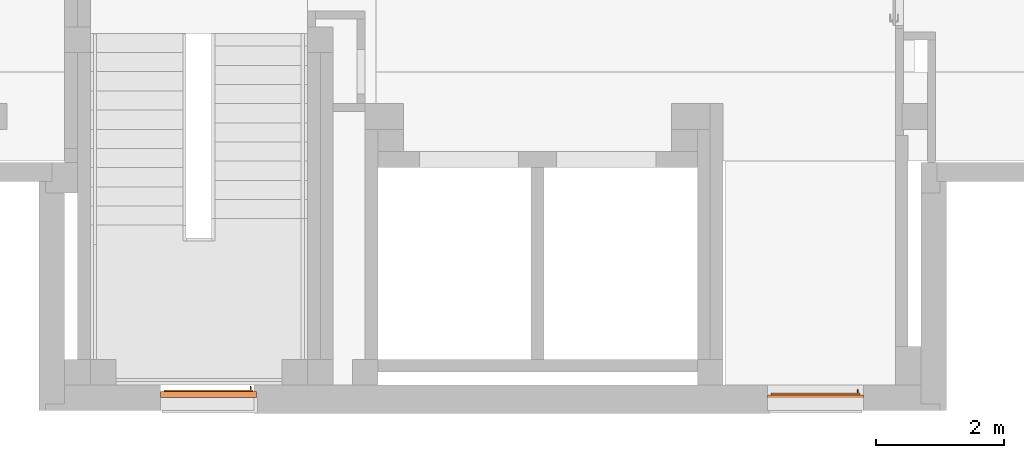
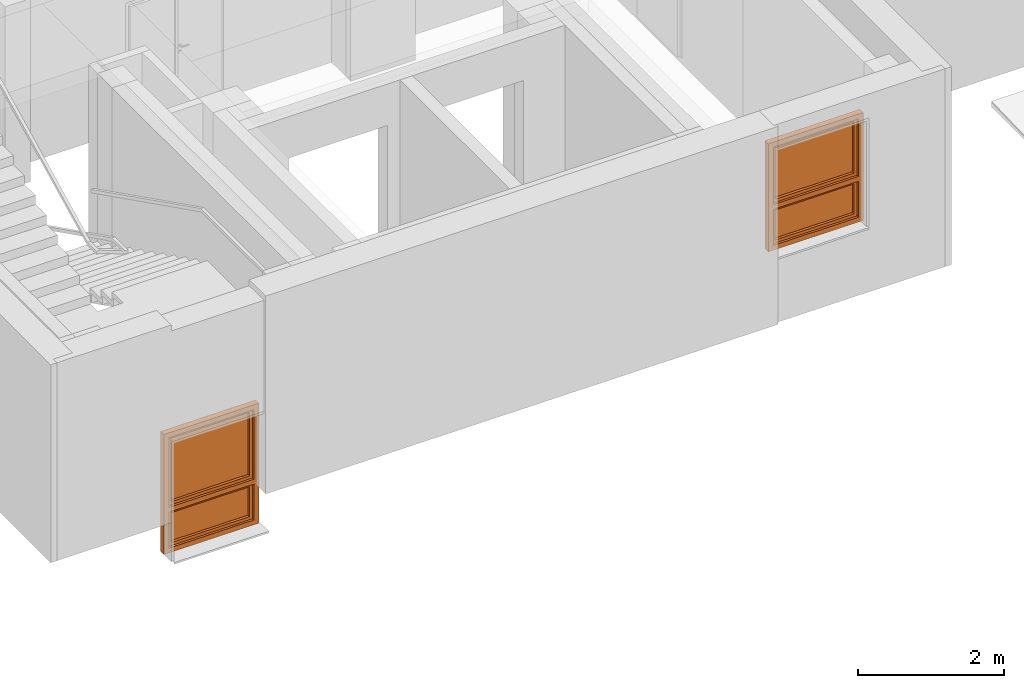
# One storey, part 27 of 27: 2 proxies.
"""IFC4 building model written with IfcOpenShell, lengths in metres."""

import ifcopenshell
import ifcopenshell.guid

model = None  # the IFC model being written
_history = None  # IfcOwnerHistory: only IFC2X3 demands one
_inside = {}  # id of a spatial element -> (the spatial element, [elements in it])
_under = {}  # id of a project, library or spatial element -> (it, [spatial elements below it])
_declared = {}  # id of a project -> (the project, [libraries it declares])
_typed = {}  # id of a type object -> (the type object, [elements of that type])
_made_of = {}  # id of a material, layer set ... -> (it, [elements and type objects made of it])


def new_model(schema):
    """Start an empty IFC model of exactly this schema.

    Asked for "IFC4X3", IfcOpenShell would pick the latest addendum, in which some entities
    have other attributes; the version numbers below select the first issue.
    IFC2X3 requires an IfcOwnerHistory on every rooted entity: one is made here for all.
    """
    global model, _history
    if schema == "IFC4X3":
        model = ifcopenshell.file(schema_version=(4, 3, 0, 0))
    else:
        model = ifcopenshell.file(schema=schema)
    _inside.clear()
    _under.clear()
    _declared.clear()
    _typed.clear()
    _made_of.clear()
    _history = None
    if model.schema == "IFC2X3":
        org = make("IfcOrganization", Name="unknown")
        user = make(
            "IfcPersonAndOrganization",
            ThePerson=make("IfcPerson", FamilyName="unknown"),
            TheOrganization=org,
        )
        app = make(
            "IfcApplication",
            ApplicationDeveloper=org,
            Version="unknown",
            ApplicationFullName="unknown",
            ApplicationIdentifier="unknown",
        )
        _history = make(
            "IfcOwnerHistory",
            OwningUser=user,
            OwningApplication=app,
            ChangeAction="ADDED",
            CreationDate=0,
        )
    return model


def make(cls, **values):
    """One entity of the class cls with the attributes given. An attribute that is None is left unset."""
    return model.create_entity(
        cls, **{name: value for name, value in values.items() if value is not None}
    )


def entity(cls, *values):
    """Any entity or typed value of the class cls, its attributes in the order of the schema. None: left unset."""
    e = model.create_entity(cls)
    for i, value in enumerate(values):
        if value is not None:
            e[i] = value
    return e


def rooted(cls, **values):
    """An entity with a GlobalId (a new one), such as an element, a storey or a relation."""
    return make(cls, GlobalId=ifcopenshell.guid.new(), OwnerHistory=_history, **values)


def si_unit(unit_type, name, prefix=None):
    """IfcSIUnit, for example si_unit("LENGTHUNIT", "METRE", prefix="MILLI")."""
    return make("IfcSIUnit", UnitType=unit_type, Prefix=prefix, Name=name)


def converted_unit(unit_type, name, factor, base, dimensions=None, offset=None):
    """IfcConversionBasedUnit, such as the inch: factor (a typed value) times the base unit."""
    return make(
        "IfcConversionBasedUnit"
        if offset is None
        else "IfcConversionBasedUnitWithOffset",
        ConversionOffset=offset,
        Dimensions=None
        if dimensions is None
        else entity("IfcDimensionalExponents", *dimensions),
        UnitType=unit_type,
        Name=name,
        ConversionFactor=make(
            "IfcMeasureWithUnit", ValueComponent=factor, UnitComponent=base
        ),
    )


def derived_unit(unit_type, elements):
    """IfcDerivedUnit: a product of units, each with its exponent."""
    return make(
        "IfcDerivedUnit",
        Elements=[
            make("IfcDerivedUnitElement", Unit=unit, Exponent=power)
            for unit, power in elements
        ],
        UnitType=unit_type,
    )


def assignment(units):
    """IfcUnitAssignment: the units of a project."""
    return None if units is None else make("IfcUnitAssignment", Units=units)


def point(xyz):
    """IfcCartesianPoint."""
    return None if xyz is None else make("IfcCartesianPoint", Coordinates=xyz)


def direction(xyz):
    """IfcDirection."""
    return None if xyz is None else make("IfcDirection", DirectionRatios=xyz)


def frame(location, z_axis=None, x_axis=None):
    """IfcAxis2Placement3D, a coordinate frame: its origin and axes. An axis left out is left unset."""
    return make(
        "IfcAxis2Placement3D",
        Location=point(location),
        Axis=direction(z_axis),
        RefDirection=direction(x_axis),
    )


def origin():
    """The frame at (0, 0, 0) with its axes left unset."""
    return frame((0.0, 0.0, 0.0))


def origin_with_axes():
    """The frame at (0, 0, 0) with the z axis (0, 0, 1) and the x axis (1, 0, 0) written out."""
    return frame((0.0, 0.0, 0.0), z_axis=(0.0, 0.0, 1.0), x_axis=(1.0, 0.0, 0.0))


def place(relative_to, where):
    """IfcLocalPlacement: puts the frame where relative to a parent placement (None: the world)."""
    return make(
        "IfcLocalPlacement", PlacementRelTo=relative_to, RelativePlacement=where
    )


def context(
    kind, dimensions, precision=None, world=None, true_north=None, identifier=None
):
    """IfcGeometricRepresentationContext, for example the 3D "Model" context."""
    return make(
        "IfcGeometricRepresentationContext",
        ContextIdentifier=identifier,
        ContextType=kind,
        CoordinateSpaceDimension=dimensions,
        Precision=precision,
        WorldCoordinateSystem=world,
        TrueNorth=true_north,
    )


def subcontext(parent, identifier, kind, view, scale=None):
    """IfcGeometricRepresentationSubContext, for example "Body" below "Model"."""
    return make(
        "IfcGeometricRepresentationSubContext",
        ContextIdentifier=identifier,
        ContextType=kind,
        ParentContext=parent,
        TargetScale=scale,
        TargetView=view,
    )


def project(units=None, contexts=None):
    """IfcProject with its units and contexts."""
    return rooted(
        "IfcProject",
        Name="project",
        RepresentationContexts=contexts,
        UnitsInContext=assignment(units),
    )


def spatial(cls, under=None, at=None, **own):
    """A site, building, storey or space (cls), placed at a placement, below another one or the project."""
    s = rooted(cls, ObjectPlacement=at, **own)
    if under is not None:
        _under.setdefault(under.id(), (under, []))[1].append(s)
    return s


def faces_of(points, faces, orient=None, outer=None):
    """IfcFace entities. A face is a list of loops; a loop is a list of indices into points, from 0.

    orient and outer hold one flag for each loop. By default every Orientation is true, the
    first loop of a face is its IfcFaceOuterBound and the others are IfcFaceBound.
    """
    made = []
    for i, loops in enumerate(faces):
        bounds = []
        for j, loop in enumerate(loops):
            is_outer = j == 0 if outer is None else outer[i][j]
            bounds.append(
                make(
                    "IfcFaceOuterBound" if is_outer else "IfcFaceBound",
                    Bound=make("IfcPolyLoop", Polygon=[points[k] for k in loop]),
                    Orientation=True if orient is None else orient[i][j],
                )
            )
        made.append(make("IfcFace", Bounds=bounds))
    return made


def closed_shell(faces, orient=None, outer=None):
    """The faces of one IfcClosedShell. faceted_brep and surface_model build it on their shared points."""
    return ("IfcClosedShell", faces, orient, outer)


def open_shell(faces, orient=None, outer=None):
    """The faces of one IfcOpenShell. surface_model builds it on its shared points."""
    return ("IfcOpenShell", faces, orient, outer)


def surface_model(cls, points, shells):
    """IfcFaceBasedSurfaceModel or IfcShellBasedSurfaceModel (cls): surfaces that need not close."""
    shared = [point(p) for p in points]
    made = [make(c, CfsFaces=faces_of(shared, fs, o, b)) for c, fs, o, b in shells]
    if cls == "IfcFaceBasedSurfaceModel":
        return make(cls, FbsmFaces=made)
    return make(cls, SbsmBoundary=made)


def shape(context_of_items, identifier, shape_type, items):
    """IfcShapeRepresentation: the items that make up one representation, for example the "Body"."""
    return make(
        "IfcShapeRepresentation",
        ContextOfItems=context_of_items,
        RepresentationIdentifier=identifier,
        RepresentationType=shape_type,
        Items=items,
    )


def source(mapping_origin, context_of_items, identifier, shape_type, items):
    """IfcRepresentationMap: a shape defined once, which mapped items show again and again."""
    return make(
        "IfcRepresentationMap",
        MappingOrigin=mapping_origin,
        MappedRepresentation=shape(context_of_items, identifier, shape_type, items),
    )


def transform(
    local_origin,
    x_axis=None,
    y_axis=None,
    z_axis=None,
    scale=None,
    scale2=None,
    scale3=None,
    uniform=True,
):
    """IfcCartesianTransformationOperator3D, or its non-uniform kind. x_axis, y_axis, z_axis: its Axis1, 2, 3."""
    if uniform:
        return make(
            "IfcCartesianTransformationOperator3D",
            Axis1=direction(x_axis),
            Axis2=direction(y_axis),
            LocalOrigin=point(local_origin),
            Scale=scale,
            Axis3=direction(z_axis),
        )
    return make(
        "IfcCartesianTransformationOperator3DnonUniform",
        Axis1=direction(x_axis),
        Axis2=direction(y_axis),
        LocalOrigin=point(local_origin),
        Scale=scale,
        Axis3=direction(z_axis),
        Scale2=scale2,
        Scale3=scale3,
    )


def mapped(mapping_source, mapping_target):
    """IfcMappedItem: shows the shape of a source again, moved by a transform."""
    return make(
        "IfcMappedItem", MappingSource=mapping_source, MappingTarget=mapping_target
    )


def made_of(thing, what):
    """Note that an element or type object is made of a material, layer set ...; save() writes the relation."""
    if what is not None:
        _made_of.setdefault(what.id(), (what, []))[1].append(thing)
    return thing


def element(
    cls,
    number,
    at=None,
    inside=None,
    cuts=None,
    type_object=None,
    material=None,
    context=None,
    identifier="Body",
    shape_type=None,
    held_by="IfcProductDefinitionShape",
    body=None,
    shapes=None,
    **own,
):
    """One element of the class cls, such as IfcWall. Its Tag is "e" and its number.

    at: its placement. inside: the storey or other place that contains it. cuts: it is an
    opening in that element (IfcRelVoidsElement). A single representation is given by context,
    identifier, shape_type and body (its items); several are given by shapes. held_by: the class
    of the entity that holds the representations. save() writes the other relations.
    """
    e = rooted(cls, Tag="e%d" % number, ObjectPlacement=at, **own)
    if body is not None:
        shapes = [shape(context, identifier, shape_type, body)]
    if shapes is not None:
        e.Representation = make(held_by, Representations=shapes)
    if inside is not None:
        _inside.setdefault(inside.id(), (inside, []))[1].append(e)
    if cuts is not None:
        rooted(
            "IfcRelVoidsElement", RelatingBuildingElement=cuts, RelatedOpeningElement=e
        )
    if type_object is not None:
        _typed.setdefault(type_object.id(), (type_object, []))[1].append(e)
    return made_of(e, material)


def aggregate(whole, parts):
    """IfcRelAggregates: a whole, such as a stair, and the parts it consists of."""
    return rooted("IfcRelAggregates", RelatingObject=whole, RelatedObjects=parts)


def save(model, path):
    """Write the relations noted so far, then the file.

    IfcRelAggregates (storeys below a building ...), IfcRelContainedInSpatialStructure (elements
    in a storey), IfcRelDefinesByType, IfcRelAssociatesMaterial and IfcRelDeclares: one each for
    every whole, place, type object, material and project.
    """
    for whole, parts in _under.values():
        aggregate(whole, parts)
    for where, things in _inside.values():
        rooted(
            "IfcRelContainedInSpatialStructure",
            RelatedElements=things,
            RelatingStructure=where,
        )
    for kind, things in _typed.values():
        rooted("IfcRelDefinesByType", RelatedObjects=things, RelatingType=kind)
    for what, things in _made_of.values():
        rooted("IfcRelAssociatesMaterial", RelatedObjects=things, RelatingMaterial=what)
    for by, libraries in _declared.values():
        rooted("IfcRelDeclares", RelatingContext=by, RelatedDefinitions=libraries)
    model.write(path)


model = new_model("IFC4")

# Units and contexts
model_context = context("Model", 3, precision=1e-05, world=origin())
body_context = subcontext(model_context, "Body", "Model", "MODEL_VIEW")
ifc_project = project(units=[si_unit("LENGTHUNIT", "METRE"), si_unit("AREAUNIT", "SQUARE_METRE"), si_unit("VOLUMEUNIT", "CUBIC_METRE"), si_unit("MASSUNIT", "GRAM", prefix="KILO"), converted_unit("PLANEANGLEUNIT", "DEGREE", entity("IfcPlaneAngleMeasure", 0.0174532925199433), si_unit("PLANEANGLEUNIT", "RADIAN"), dimensions=[0, 0, 0, 0, 0, 0, 0]), derived_unit("THERMALTRANSMITTANCEUNIT", [(si_unit("POWERUNIT", "WATT"), 1), (si_unit("THERMODYNAMICTEMPERATUREUNIT", "KELVIN"), -1), (si_unit("LENGTHUNIT", "METRE"), -2)]), derived_unit("VOLUMETRICFLOWRATEUNIT", [(si_unit("LENGTHUNIT", "METRE"), 3), (converted_unit("TIMEUNIT", "hour", entity("IfcTimeMeasure", 3600.0), si_unit("TIMEUNIT", "SECOND"), dimensions=[0, 0, 1, 0, 0, 0, 0]), -1), (si_unit("LENGTHUNIT", "METRE"), -1)])], contexts=[model_context])

# Site, building, storey
site_placement = place(None, origin())
site = spatial("IfcSite", under=ifc_project, at=site_placement, Name="3. ASŘ", CompositionType="ELEMENT")
building_placement = place(site_placement, origin())
building = spatial("IfcBuilding", under=site, at=building_placement, Name="Pavilon C", CompositionType="ELEMENT")
storey_placement = place(building_placement, frame((0.0, 0.0, 7.2)))
storey = spatial("IfcBuildingStorey", under=building, at=storey_placement, Name="Půdorys 3.NP", CompositionType="ELEMENT", Elevation=7.2)

# Proxies
shared_shape_1 = source(origin_with_axes(), body_context, "Body", "SurfaceModel", [
    surface_model("IfcShellBasedSurfaceModel", [(0.0, 0.0920000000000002, 2.0), (0.0, 0.092, -5.63337527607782e-18), (0.08, 0.092, -5.63337527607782e-18), (0.08, 0.0920000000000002, 2.0), (0.0, 0.0, 5.63337527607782e-18), (0.0, 2.41584530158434e-16, 2.0), (0.08, 2.41584530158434e-16, 2.0), (0.08, 0.0, 5.63337527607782e-18)], [closed_shell([[[0, 1, 2, 3]], [[4, 5, 6, 7]], [[1, 0, 5, 4]], [[2, 1, 4, 7]], [[3, 2, 7, 6]], [[0, 3, 6, 5]]], orient=[[False], [False], [False], [False], [False], [False]])]),
    surface_model("IfcShellBasedSurfaceModel", [(1.42, 0.0920000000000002, 2.0), (1.42, 0.092, -5.63337527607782e-18), (1.5, 0.092, -5.63337527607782e-18), (1.5, 0.0920000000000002, 2.0), (1.42, 0.0, 5.63337527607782e-18), (1.42, 2.41584530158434e-16, 2.0), (1.5, 2.41584530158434e-16, 2.0), (1.5, 0.0, 5.63337527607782e-18)], [closed_shell([[[0, 1, 2, 3]], [[4, 5, 6, 7]], [[1, 0, 5, 4]], [[2, 1, 4, 7]], [[3, 2, 7, 6]], [[0, 3, 6, 5]]], orient=[[False], [False], [False], [False], [False], [False]])]),
    surface_model("IfcShellBasedSurfaceModel", [(0.08, 0.092, 0.08), (0.08, 0.092, -5.63337527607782e-18), (1.42, 0.092, -5.63337527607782e-18), (1.42, 0.092, 0.08), (0.08, 0.0, 5.63337527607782e-18), (0.08, 1.4210854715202e-17, 0.08), (1.42, 1.4210854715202e-17, 0.08), (1.42, 0.0, 5.63337527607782e-18)], [closed_shell([[[0, 1, 2, 3]], [[4, 5, 6, 7]], [[1, 0, 5, 4]], [[2, 1, 4, 7]], [[3, 2, 7, 6]], [[0, 3, 6, 5]]], orient=[[False], [False], [False], [False], [False], [False]])]),
    surface_model("IfcShellBasedSurfaceModel", [(0.08, 0.0920000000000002, 2.0), (0.08, 0.0920000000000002, 1.92), (1.42, 0.0920000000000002, 1.92), (1.42, 0.0920000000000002, 2.0), (0.08, 2.41584530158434e-16, 1.92), (0.08, 2.55795384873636e-16, 2.0), (1.42, 2.55795384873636e-16, 2.0), (1.42, 2.41584530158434e-16, 1.92)], [closed_shell([[[0, 1, 2, 3]], [[4, 5, 6, 7]], [[1, 0, 5, 4]], [[2, 1, 4, 7]], [[3, 2, 7, 6]], [[0, 3, 6, 5]]], orient=[[False], [False], [False], [False], [False], [False]])]),
    surface_model("IfcShellBasedSurfaceModel", [(0.08, 0.0920000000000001, 0.76), (0.08, 0.0920000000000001, 0.68), (1.42, 0.0920000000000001, 0.68), (1.42, 0.0920000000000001, 0.76), (0.08, 7.105427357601e-17, 0.68), (0.08, 8.5265128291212e-17, 0.76), (1.42, 8.5265128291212e-17, 0.76), (1.42, 7.105427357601e-17, 0.68)], [closed_shell([[[0, 1, 2, 3]], [[4, 5, 6, 7]], [[1, 0, 5, 4]], [[2, 1, 4, 7]], [[3, 2, 7, 6]], [[0, 3, 6, 5]]], orient=[[False], [False], [False], [False], [False], [False]])]),
    surface_model("IfcShellBasedSurfaceModel", [(0.05, 0.122, 0.71), (0.05, 0.122, 0.05), (0.13, 0.122, 0.05), (0.13, 0.122, 0.71), (0.05, 0.037, 0.05), (0.05, 0.0370000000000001, 0.71), (0.13, 0.0370000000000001, 0.71), (0.13, 0.037, 0.05)], [closed_shell([[[0, 1, 2, 3]], [[4, 5, 6, 7]], [[1, 0, 5, 4]], [[2, 1, 4, 7]], [[3, 2, 7, 6]], [[0, 3, 6, 5]]], orient=[[False], [False], [False], [False], [False], [False]])]),
    surface_model("IfcShellBasedSurfaceModel", [(1.37, 0.122, 0.71), (1.37, 0.122, 0.05), (1.45, 0.122, 0.05), (1.45, 0.122, 0.71), (1.37, 0.037, 0.05), (1.37, 0.0370000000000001, 0.71), (1.45, 0.0370000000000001, 0.71), (1.45, 0.037, 0.05)], [closed_shell([[[0, 1, 2, 3]], [[4, 5, 6, 7]], [[1, 0, 5, 4]], [[2, 1, 4, 7]], [[3, 2, 7, 6]], [[0, 3, 6, 5]]], orient=[[False], [False], [False], [False], [False], [False]])]),
    surface_model("IfcShellBasedSurfaceModel", [(0.13, 0.122, 0.13), (0.13, 0.122, 0.05), (1.37, 0.122, 0.05), (1.37, 0.122, 0.13), (0.13, 0.037, 0.05), (0.13, 0.037, 0.13), (1.37, 0.037, 0.13), (1.37, 0.037, 0.05)], [closed_shell([[[0, 1, 2, 3]], [[4, 5, 6, 7]], [[1, 0, 5, 4]], [[2, 1, 4, 7]], [[3, 2, 7, 6]], [[0, 3, 6, 5]]], orient=[[False], [False], [False], [False], [False], [False]])]),
    surface_model("IfcShellBasedSurfaceModel", [(0.13, 0.122, 0.71), (0.13, 0.122, 0.63), (1.37, 0.122, 0.63), (1.37, 0.122, 0.71), (0.13, 0.0370000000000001, 0.63), (0.13, 0.0370000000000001, 0.71), (1.37, 0.0370000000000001, 0.71), (1.37, 0.0370000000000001, 0.63)], [closed_shell([[[0, 1, 2, 3]], [[4, 5, 6, 7]], [[1, 0, 5, 4]], [[2, 1, 4, 7]], [[3, 2, 7, 6]], [[0, 3, 6, 5]]], orient=[[False], [False], [False], [False], [False], [False]])]),
    surface_model("IfcShellBasedSurfaceModel", [(0.05, 0.122, 1.95), (0.05, 0.122, 0.73), (0.13, 0.122, 0.73), (0.13, 0.122, 1.95), (0.05, 0.0370000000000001, 0.73), (0.05, 0.0370000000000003, 1.95), (0.13, 0.0370000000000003, 1.95), (0.13, 0.0370000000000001, 0.73)], [closed_shell([[[0, 1, 2, 3]], [[4, 5, 6, 7]], [[1, 0, 5, 4]], [[2, 1, 4, 7]], [[3, 2, 7, 6]], [[0, 3, 6, 5]]], orient=[[False], [False], [False], [False], [False], [False]])]),
    surface_model("IfcShellBasedSurfaceModel", [(1.37, 0.122, 1.95), (1.37, 0.122, 0.73), (1.45, 0.122, 0.73), (1.45, 0.122, 1.95), (1.37, 0.0370000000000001, 0.73), (1.37, 0.0370000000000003, 1.95), (1.45, 0.0370000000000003, 1.95), (1.45, 0.0370000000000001, 0.73)], [closed_shell([[[0, 1, 2, 3]], [[4, 5, 6, 7]], [[1, 0, 5, 4]], [[2, 1, 4, 7]], [[3, 2, 7, 6]], [[0, 3, 6, 5]]], orient=[[False], [False], [False], [False], [False], [False]])]),
    surface_model("IfcShellBasedSurfaceModel", [(0.13, 0.122, 0.81), (0.13, 0.122, 0.73), (1.37, 0.122, 0.73), (1.37, 0.122, 0.81), (0.13, 0.0370000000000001, 0.73), (0.13, 0.0370000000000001, 0.81), (1.37, 0.0370000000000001, 0.81), (1.37, 0.0370000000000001, 0.73)], [closed_shell([[[0, 1, 2, 3]], [[4, 5, 6, 7]], [[1, 0, 5, 4]], [[2, 1, 4, 7]], [[3, 2, 7, 6]], [[0, 3, 6, 5]]], orient=[[False], [False], [False], [False], [False], [False]])]),
    surface_model("IfcShellBasedSurfaceModel", [(0.13, 0.122, 1.95), (0.13, 0.122, 1.87), (1.37, 0.122, 1.87), (1.37, 0.122, 1.95), (0.13, 0.0370000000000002, 1.87), (0.13, 0.0370000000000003, 1.95), (1.37, 0.0370000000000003, 1.95), (1.37, 0.0370000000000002, 1.87)], [closed_shell([[[0, 1, 2, 3]], [[4, 5, 6, 7]], [[1, 0, 5, 4]], [[2, 1, 4, 7]], [[3, 2, 7, 6]], [[0, 3, 6, 5]]], orient=[[False], [False], [False], [False], [False], [False]])]),
    surface_model("IfcShellBasedSurfaceModel", [(0.0775, 0.122, 1.46), (0.1025, 0.122, 1.46), (0.1025, 0.122, 1.42), (0.0775, 0.122, 1.42), (0.0775, 0.132, 1.42), (0.1025, 0.132, 1.42), (0.1025, 0.132, 1.46), (0.0775, 0.132, 1.46)], [closed_shell([[[0, 1, 2, 3]], [[4, 5, 6, 7]], [[3, 4, 7, 0]], [[2, 5, 4, 3]], [[1, 6, 5, 2]], [[0, 7, 6, 1]]], orient=[[False], [False], [False], [False], [False], [False]])]),
    surface_model("IfcShellBasedSurfaceModel", [(0.1, 0.132, 1.44), (0.0986602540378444, 0.132, 1.435), (0.095, 0.132, 1.43133974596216), (0.09, 0.132, 1.43), (0.085, 0.132, 1.43133974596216), (0.0813397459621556, 0.132, 1.435), (0.08, 0.132, 1.44), (0.0813397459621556, 0.132, 1.445), (0.085, 0.132, 1.44866025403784), (0.09, 0.132, 1.45), (0.095, 0.132, 1.44866025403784), (0.0986602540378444, 0.132, 1.445), (0.0986602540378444, 0.177, 1.445), (0.1, 0.172, 1.44), (0.095, 0.180660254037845, 1.44866025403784), (0.09, 0.182, 1.45), (0.085, 0.180660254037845, 1.44866025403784), (0.0813397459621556, 0.177, 1.445), (0.08, 0.172, 1.44), (0.0813397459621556, 0.167, 1.435), (0.085, 0.163339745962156, 1.43133974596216), (0.09, 0.162, 1.43), (0.095, 0.163339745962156, 1.43133974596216), (0.0986602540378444, 0.167, 1.435), (0.0986602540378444, 0.177, 1.325), (0.1, 0.172, 1.325), (0.095, 0.180660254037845, 1.325), (0.09, 0.182, 1.325), (0.085, 0.180660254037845, 1.325), (0.0813397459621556, 0.177, 1.325), (0.08, 0.172, 1.325), (0.0813397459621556, 0.167, 1.325), (0.085, 0.163339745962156, 1.325), (0.09, 0.162, 1.325), (0.095, 0.163339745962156, 1.325), (0.0986602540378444, 0.167, 1.325)], [open_shell([[[0, 1, 2, 3, 4, 5, 6, 7, 8, 9, 10, 11]], [[0, 11, 12, 13]], [[11, 10, 14, 12]], [[10, 9, 15, 14]], [[9, 8, 16, 15]], [[8, 7, 17, 16]], [[7, 6, 18, 17]], [[6, 5, 19, 18]], [[5, 4, 20, 19]], [[4, 3, 21, 20]], [[3, 2, 22, 21]], [[2, 1, 23, 22]], [[1, 0, 13, 23]], [[13, 12, 24, 25]], [[12, 14, 26, 24]], [[14, 15, 27, 26]], [[15, 16, 28, 27]], [[16, 17, 29, 28]], [[17, 18, 30, 29]], [[18, 19, 31, 30]], [[19, 20, 32, 31]], [[20, 21, 33, 32]], [[21, 22, 34, 33]], [[22, 23, 35, 34]], [[23, 13, 25, 35]]], orient=[[False], [False], [False], [False], [False], [False], [False], [False], [False], [False], [False], [False], [False], [False], [False], [False], [False], [False], [False], [False], [False], [False], [False], [False], [False]])]),
    surface_model("IfcShellBasedSurfaceModel", [(0.13, 0.0795, 0.13), (1.37, 0.0795, 0.13), (1.37, 0.0795, 0.63), (0.13, 0.0795, 0.63)], [open_shell([[[0, 1, 2, 3]]], orient=[[False]])]),
    surface_model("IfcShellBasedSurfaceModel", [(0.13, 0.0795000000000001, 0.81), (1.37, 0.0795000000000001, 0.81), (1.37, 0.0795000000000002, 1.87), (0.13, 0.0795000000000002, 1.87)], [open_shell([[[0, 1, 2, 3]]], orient=[[False]])]),
])
proxy_1_placement = place(storey_placement, frame((33.65, -4.4, -0.75), z_axis=(0.0, 0.0, 1.0), x_axis=(-1.0, 0.0, 0.0)))
element("IfcBuildingElementProxy", 1, at=proxy_1_placement, inside=storey, Name="O06", context=body_context, shape_type="MappedRepresentation", body=[
    mapped(shared_shape_1, transform((0.0, 0.0, 0.0), x_axis=(1.0, 0.0, 0.0), y_axis=(0.0, -1.0, 0.0), z_axis=(0.0, 0.0, 1.0), scale=1.0)),
])
shared_shape_2 = source(origin_with_axes(), body_context, "Body", "SurfaceModel", [
    surface_model("IfcShellBasedSurfaceModel", [(0.0, 0.182, 1.8), (0.0, 0.182, -5.63337527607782e-18), (0.08, 0.182, -5.63337527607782e-18), (0.08, 0.182, 1.8), (0.0, 0.0899999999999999, 5.63337527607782e-18), (0.0, 0.0900000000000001, 1.8), (0.08, 0.0900000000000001, 1.8), (0.08, 0.0899999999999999, 5.63337527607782e-18)], [closed_shell([[[0, 1, 2, 3]], [[4, 5, 6, 7]], [[1, 0, 5, 4]], [[2, 1, 4, 7]], [[3, 2, 7, 6]], [[0, 3, 6, 5]]], orient=[[False], [False], [False], [False], [False], [False]])]),
    surface_model("IfcShellBasedSurfaceModel", [(1.42, 0.182, 1.8), (1.42, 0.182, -5.63337527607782e-18), (1.5, 0.182, -5.63337527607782e-18), (1.5, 0.182, 1.8), (1.42, 0.0899999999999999, 5.63337527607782e-18), (1.42, 0.0900000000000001, 1.8), (1.5, 0.0900000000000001, 1.8), (1.5, 0.0899999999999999, 5.63337527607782e-18)], [closed_shell([[[0, 1, 2, 3]], [[4, 5, 6, 7]], [[1, 0, 5, 4]], [[2, 1, 4, 7]], [[3, 2, 7, 6]], [[0, 3, 6, 5]]], orient=[[False], [False], [False], [False], [False], [False]])]),
    surface_model("IfcShellBasedSurfaceModel", [(0.08, 0.182, 0.08), (0.08, 0.182, -5.63337527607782e-18), (1.42, 0.182, -5.63337527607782e-18), (1.42, 0.182, 0.08), (0.08, 0.0899999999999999, 5.63337527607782e-18), (0.08, 0.0899999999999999, 0.08), (1.42, 0.0899999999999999, 0.08), (1.42, 0.0899999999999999, 5.63337527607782e-18)], [closed_shell([[[0, 1, 2, 3]], [[4, 5, 6, 7]], [[1, 0, 5, 4]], [[2, 1, 4, 7]], [[3, 2, 7, 6]], [[0, 3, 6, 5]]], orient=[[False], [False], [False], [False], [False], [False]])]),
    surface_model("IfcShellBasedSurfaceModel", [(0.08, 0.182, 1.8), (0.08, 0.182, 1.72), (1.42, 0.182, 1.72), (1.42, 0.182, 1.8), (0.08, 0.0900000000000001, 1.72), (0.08, 0.0900000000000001, 1.8), (1.42, 0.0900000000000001, 1.8), (1.42, 0.0900000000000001, 1.72)], [closed_shell([[[0, 1, 2, 3]], [[4, 5, 6, 7]], [[1, 0, 5, 4]], [[2, 1, 4, 7]], [[3, 2, 7, 6]], [[0, 3, 6, 5]]], orient=[[False], [False], [False], [False], [False], [False]])]),
    surface_model("IfcShellBasedSurfaceModel", [(0.08, 0.182, 0.76), (0.08, 0.182, 0.68), (1.42, 0.182, 0.68), (1.42, 0.182, 0.76), (0.08, 0.0899999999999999, 0.68), (0.08, 0.0899999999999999, 0.76), (1.42, 0.0899999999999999, 0.76), (1.42, 0.0899999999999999, 0.68)], [closed_shell([[[0, 1, 2, 3]], [[4, 5, 6, 7]], [[1, 0, 5, 4]], [[2, 1, 4, 7]], [[3, 2, 7, 6]], [[0, 3, 6, 5]]], orient=[[False], [False], [False], [False], [False], [False]])]),
    surface_model("IfcShellBasedSurfaceModel", [(0.05, 0.145, 0.71), (0.05, 0.145, 0.05), (0.13, 0.145, 0.05), (0.13, 0.145, 0.71), (0.05, 0.0599999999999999, 0.05), (0.05, 0.0599999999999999, 0.71), (0.13, 0.0599999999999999, 0.71), (0.13, 0.0599999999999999, 0.05)], [closed_shell([[[0, 1, 2, 3]], [[4, 5, 6, 7]], [[1, 0, 5, 4]], [[2, 1, 4, 7]], [[3, 2, 7, 6]], [[0, 3, 6, 5]]], orient=[[False], [False], [False], [False], [False], [False]])]),
    surface_model("IfcShellBasedSurfaceModel", [(1.37, 0.145, 0.71), (1.37, 0.145, 0.05), (1.45, 0.145, 0.05), (1.45, 0.145, 0.71), (1.37, 0.0599999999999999, 0.05), (1.37, 0.0599999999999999, 0.71), (1.45, 0.0599999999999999, 0.71), (1.45, 0.0599999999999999, 0.05)], [closed_shell([[[0, 1, 2, 3]], [[4, 5, 6, 7]], [[1, 0, 5, 4]], [[2, 1, 4, 7]], [[3, 2, 7, 6]], [[0, 3, 6, 5]]], orient=[[False], [False], [False], [False], [False], [False]])]),
    surface_model("IfcShellBasedSurfaceModel", [(0.13, 0.145, 0.13), (0.13, 0.145, 0.05), (1.37, 0.145, 0.05), (1.37, 0.145, 0.13), (0.13, 0.0599999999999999, 0.05), (0.13, 0.0599999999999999, 0.13), (1.37, 0.0599999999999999, 0.13), (1.37, 0.0599999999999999, 0.05)], [closed_shell([[[0, 1, 2, 3]], [[4, 5, 6, 7]], [[1, 0, 5, 4]], [[2, 1, 4, 7]], [[3, 2, 7, 6]], [[0, 3, 6, 5]]], orient=[[False], [False], [False], [False], [False], [False]])]),
    surface_model("IfcShellBasedSurfaceModel", [(0.13, 0.145, 0.71), (0.13, 0.145, 0.63), (1.37, 0.145, 0.63), (1.37, 0.145, 0.71), (0.13, 0.0599999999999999, 0.63), (0.13, 0.0599999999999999, 0.71), (1.37, 0.0599999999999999, 0.71), (1.37, 0.0599999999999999, 0.63)], [closed_shell([[[0, 1, 2, 3]], [[4, 5, 6, 7]], [[1, 0, 5, 4]], [[2, 1, 4, 7]], [[3, 2, 7, 6]], [[0, 3, 6, 5]]], orient=[[False], [False], [False], [False], [False], [False]])]),
    surface_model("IfcShellBasedSurfaceModel", [(0.05, 0.145, 1.75), (0.05, 0.145, 0.73), (0.13, 0.145, 0.73), (0.13, 0.145, 1.75), (0.05, 0.0599999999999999, 0.73), (0.05, 0.0600000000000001, 1.75), (0.13, 0.0600000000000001, 1.75), (0.13, 0.0599999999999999, 0.73)], [closed_shell([[[0, 1, 2, 3]], [[4, 5, 6, 7]], [[1, 0, 5, 4]], [[2, 1, 4, 7]], [[3, 2, 7, 6]], [[0, 3, 6, 5]]], orient=[[False], [False], [False], [False], [False], [False]])]),
    surface_model("IfcShellBasedSurfaceModel", [(1.37, 0.145, 1.75), (1.37, 0.145, 0.73), (1.45, 0.145, 0.73), (1.45, 0.145, 1.75), (1.37, 0.0599999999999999, 0.73), (1.37, 0.0600000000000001, 1.75), (1.45, 0.0600000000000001, 1.75), (1.45, 0.0599999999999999, 0.73)], [closed_shell([[[0, 1, 2, 3]], [[4, 5, 6, 7]], [[1, 0, 5, 4]], [[2, 1, 4, 7]], [[3, 2, 7, 6]], [[0, 3, 6, 5]]], orient=[[False], [False], [False], [False], [False], [False]])]),
    surface_model("IfcShellBasedSurfaceModel", [(0.13, 0.145, 0.81), (0.13, 0.145, 0.73), (1.37, 0.145, 0.73), (1.37, 0.145, 0.81), (0.13, 0.0599999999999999, 0.73), (0.13, 0.06, 0.81), (1.37, 0.06, 0.81), (1.37, 0.0599999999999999, 0.73)], [closed_shell([[[0, 1, 2, 3]], [[4, 5, 6, 7]], [[1, 0, 5, 4]], [[2, 1, 4, 7]], [[3, 2, 7, 6]], [[0, 3, 6, 5]]], orient=[[False], [False], [False], [False], [False], [False]])]),
    surface_model("IfcShellBasedSurfaceModel", [(0.13, 0.145, 1.75), (0.13, 0.145, 1.67), (1.37, 0.145, 1.67), (1.37, 0.145, 1.75), (0.13, 0.0600000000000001, 1.67), (0.13, 0.0600000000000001, 1.75), (1.37, 0.0600000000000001, 1.75), (1.37, 0.0600000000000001, 1.67)], [closed_shell([[[0, 1, 2, 3]], [[4, 5, 6, 7]], [[1, 0, 5, 4]], [[2, 1, 4, 7]], [[3, 2, 7, 6]], [[0, 3, 6, 5]]], orient=[[False], [False], [False], [False], [False], [False]])]),
    surface_model("IfcShellBasedSurfaceModel", [(0.0775, 0.06, 1.26), (0.0775, 0.06, 1.22), (0.1025, 0.06, 1.22), (0.1025, 0.06, 1.26), (0.0775, 0.05, 1.22), (0.0775, 0.05, 1.26), (0.1025, 0.05, 1.26), (0.1025, 0.05, 1.22)], [closed_shell([[[0, 1, 2, 3]], [[4, 5, 6, 7]], [[1, 0, 5, 4]], [[2, 1, 4, 7]], [[3, 2, 7, 6]], [[0, 3, 6, 5]]], orient=[[False], [False], [False], [False], [False], [False]])]),
    surface_model("IfcShellBasedSurfaceModel", [(0.1, 0.05, 1.24), (0.0986602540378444, 0.05, 1.245), (0.095, 0.05, 1.24866025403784), (0.09, 0.05, 1.25), (0.085, 0.05, 1.24866025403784), (0.0813397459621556, 0.05, 1.245), (0.08, 0.05, 1.24), (0.0813397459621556, 0.05, 1.235), (0.085, 0.05, 1.23133974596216), (0.09, 0.05, 1.23), (0.095, 0.05, 1.23133974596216), (0.0986602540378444, 0.05, 1.235), (0.1, 0.01, 1.24), (0.0986602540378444, 0.00500000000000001, 1.245), (0.095, 0.00133974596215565, 1.24866025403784), (0.09, 2.8421709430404e-17, 1.25), (0.085, 0.00133974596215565, 1.24866025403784), (0.0813397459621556, 0.00500000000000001, 1.245), (0.08, 0.01, 1.24), (0.0813397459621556, 0.015, 1.235), (0.085, 0.0186602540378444, 1.23133974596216), (0.09, 0.02, 1.23), (0.095, 0.0186602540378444, 1.23133974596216), (0.0986602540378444, 0.015, 1.235), (0.1, 0.01, 1.125), (0.0986602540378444, 0.005, 1.125), (0.095, 0.00133974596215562, 1.125), (0.09, 0.0, 1.125), (0.085, 0.00133974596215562, 1.125), (0.0813397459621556, 0.005, 1.125), (0.08, 0.01, 1.125), (0.0813397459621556, 0.015, 1.125), (0.085, 0.0186602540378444, 1.125), (0.09, 0.02, 1.125), (0.095, 0.0186602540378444, 1.125), (0.0986602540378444, 0.015, 1.125)], [open_shell([[[0, 1, 2, 3, 4, 5, 6, 7, 8, 9, 10, 11]], [[0, 12, 13, 1]], [[1, 13, 14, 2]], [[2, 14, 15, 3]], [[3, 15, 16, 4]], [[4, 16, 17, 5]], [[5, 17, 18, 6]], [[6, 18, 19, 7]], [[7, 19, 20, 8]], [[8, 20, 21, 9]], [[9, 21, 22, 10]], [[10, 22, 23, 11]], [[11, 23, 12, 0]], [[12, 24, 25, 13]], [[13, 25, 26, 14]], [[14, 26, 27, 15]], [[15, 27, 28, 16]], [[16, 28, 29, 17]], [[17, 29, 30, 18]], [[18, 30, 31, 19]], [[19, 31, 32, 20]], [[20, 32, 33, 21]], [[21, 33, 34, 22]], [[22, 34, 35, 23]], [[23, 35, 24, 12]]], orient=[[False], [False], [False], [False], [False], [False], [False], [False], [False], [False], [False], [False], [False], [False], [False], [False], [False], [False], [False], [False], [False], [False], [False], [False], [False]])]),
    surface_model("IfcShellBasedSurfaceModel", [(0.13, 0.1025, 0.13), (1.37, 0.1025, 0.13), (1.37, 0.1025, 0.63), (0.13, 0.1025, 0.63)], [open_shell([[[0, 1, 2, 3]]], orient=[[False]])]),
    surface_model("IfcShellBasedSurfaceModel", [(0.13, 0.1025, 0.81), (1.37, 0.1025, 0.81), (1.37, 0.1025, 1.67), (0.13, 0.1025, 1.67)], [open_shell([[[0, 1, 2, 3]]], orient=[[False]])]),
])
proxy_2_placement = place(storey_placement, frame((43.15, -4.268, 1.0), z_axis=(0.0, 0.0, 1.0), x_axis=(-1.0, 1.22464679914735e-16, 0.0)))
element("IfcBuildingElementProxy", 2, at=proxy_2_placement, inside=storey, Name="O06", context=body_context, shape_type="MappedRepresentation", body=[
    mapped(shared_shape_2, transform((0.0, 0.0, 0.0), x_axis=(1.0, 0.0, 0.0), y_axis=(0.0, 1.0, 0.0), z_axis=(0.0, 0.0, 1.0), scale=1.0)),
])

save(model, "model.ifc")
